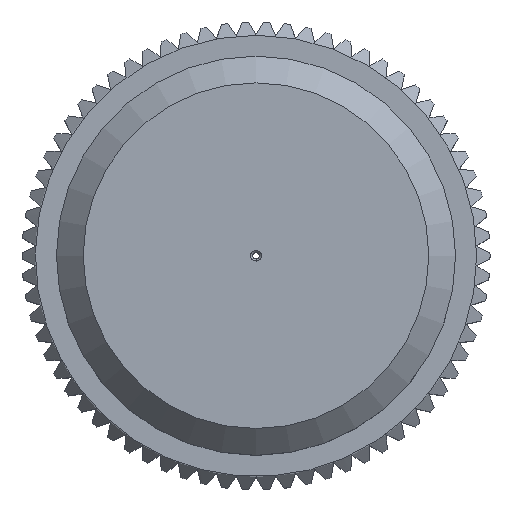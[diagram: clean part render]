
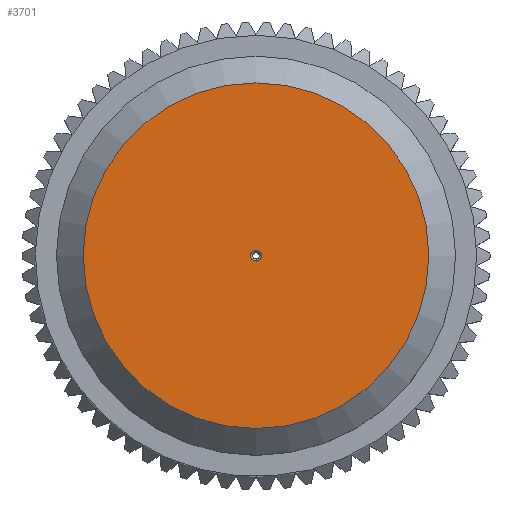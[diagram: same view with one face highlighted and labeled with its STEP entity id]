
A CAD part, top view. The second image highlights one B-rep face of the part: STEP entity #3701.
In plain terms, the highlighted planar face has unit normal (0, 0, 1).
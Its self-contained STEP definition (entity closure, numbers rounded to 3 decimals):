
#735=PLANE('',#3926);
#884=VERTEX_POINT('',#4092);
#885=VERTEX_POINT('',#4095);
#1313=CIRCLE('',#3925,0.4);
#1314=CIRCLE('',#3927,12.925);
#1324=EDGE_CURVE('',#884,#884,#1313,.T.);
#1325=EDGE_CURVE('',#885,#885,#1314,.T.);
#1967=ORIENTED_EDGE('',*,*,#1325,.F.);
#1968=ORIENTED_EDGE('',*,*,#1324,.F.);
#3245=EDGE_LOOP('',(#1967));
#3246=EDGE_LOOP('',(#1968));
#3475=FACE_BOUND('',#3245,.T.);
#3476=FACE_BOUND('',#3246,.T.);
#3701=ADVANCED_FACE('',(#3475,#3476),#735,.T.);
#3925=AXIS2_PLACEMENT_3D('',#4091,#5735,#5736);
#3926=AXIS2_PLACEMENT_3D('',#4093,#5737,$);
#3927=AXIS2_PLACEMENT_3D('',#4094,#5738,#5739);
#4091=CARTESIAN_POINT('',(0.,0.,18.));
#4092=CARTESIAN_POINT('',(-0.4,0.,18.));
#4093=CARTESIAN_POINT('',(0.,0.,18.));
#4094=CARTESIAN_POINT('',(0.,0.,18.));
#4095=CARTESIAN_POINT('',(12.925,0.,18.));
#5735=DIRECTION('',(0.,0.,1.));
#5736=DIRECTION('',(0.4,0.,0.));
#5737=DIRECTION('',(0.,0.,1.));
#5738=DIRECTION('',(0.,0.,-1.));
#5739=DIRECTION('',(-12.925,0.,0.));
